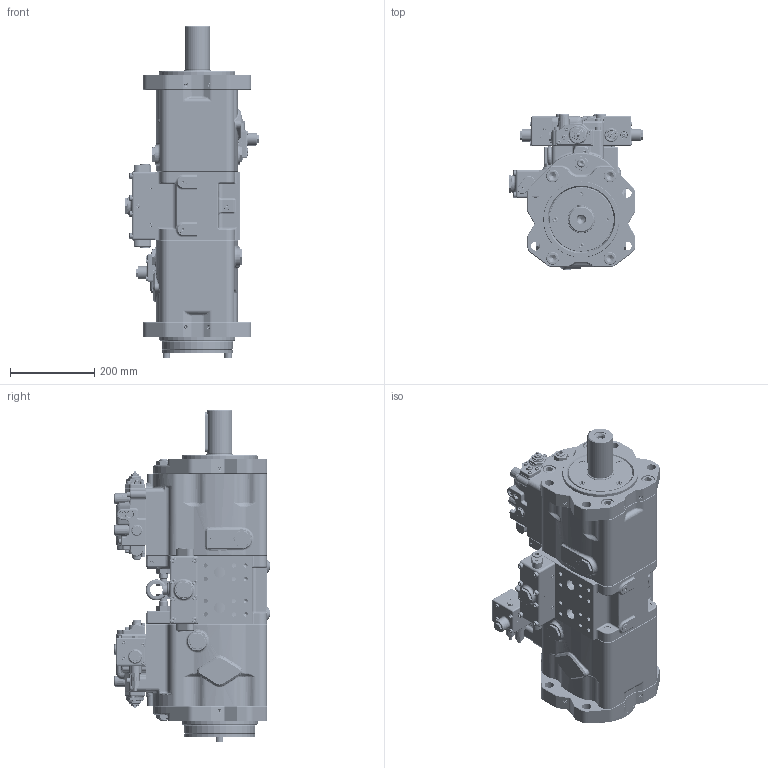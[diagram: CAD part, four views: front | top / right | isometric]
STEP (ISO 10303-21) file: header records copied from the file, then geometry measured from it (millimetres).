
FILE_DESCRIPTION((''),'2;1');
FILE_NAME('I:\3D Step files\KPMJ models\K3VG180DT-10NRS-70H1-0.stp','2011-02-01T12:03:18',('mnorman'),(''),'Autodesk Inventor 2011','Autodesk Inventor 2011','');
FILE_SCHEMA(('AUTOMOTIVE_DESIGN { 1 0 10303 214 1 1 1 1 }'));
Length unit declared in the file: millimetre
Products named in the file (1): K3VG180DT-10NRS-70H1-0
Bounding box: 317 x 369 x 786 mm (x, y, z)
Volume: 34299022.9 mm3; surface area: 1168868.8 mm2
Topology: 1 solids, 1 shells, 4706 faces, 11139 edges, 6583 vertices
Faces by surface type: plane 2342, cone 897, cylinder 861, bspline 359, torus 204, sphere 43
Full cylindrical faces by diameter (mm): 1.7 x8, 2.2 x2, 4 x36, 4.917 x2, 5 x9, 6.2 x1, 8 x6, 8.376 x4, 10 x30, 10.106 x16, 11 x12, 12 x1, 13 x20, 13.157 x1, 13.835 x5, 14 x20, 15 x6, 15.7 x4, 17 x5, 17.294 x7, 18 x5, 20 x6, 20.5 x2, 22 x12, 24 x1, 26 x2, 28 x2, 30 x17, 32 x8, 40 x2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
Entity records: 153226 total; most frequent: CARTESIAN_POINT 52114, DIRECTION 21050, ORIENTED_EDGE 20290, EDGE_CURVE 10145, AXIS2_PLACEMENT_3D 7980, VERTEX_POINT 6276, EDGE_LOOP 5577, VECTOR 5090
